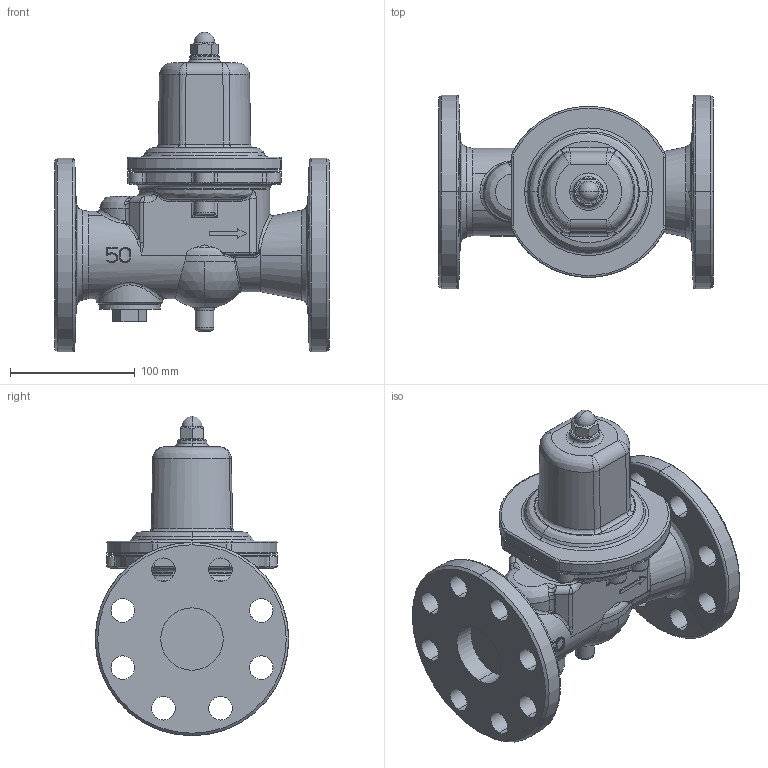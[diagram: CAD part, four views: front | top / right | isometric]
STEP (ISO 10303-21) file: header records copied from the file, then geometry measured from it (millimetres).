
FILE_DESCRIPTION( (''), '2;1');
FILE_NAME ('PC2091.14444.GD-29-NE 50A_23961.stp','2026-04-16T18:00:12',(''),(''),'spGate 21.9.4 (****-****-****-****)','','');
FILE_SCHEMA (('AUTOMOTIVE_DESIGN'));
Length unit declared in the file: millimetre
Products named in the file (6): Assembly; GD-26-NE ダイヤフラム 50A; GD-26-NE 保護筒 50A; GD-26-NE 六角袋ナット 32-50A; GD-26-NE ストレーナキャップ 32-50A; GD-27-NE 弁箱 50A
Assembly tree (5 placements, depth 2):
  Assembly
    GD-26-NE ダイヤフラム 50A
    GD-26-NE 保護筒 50A
    GD-26-NE 六角袋ナット 32-50A
    GD-26-NE ストレーナキャップ 32-50A
    GD-27-NE 弁箱 50A
Bounding box: 220 x 155 x 256 mm (x, y, z)
Volume: 2107255 mm3; surface area: 246208.4 mm2
Topology: 5 solids, 5 shells, 456 faces, 1134 edges, 671 vertices
Faces by surface type: bspline 211, cylinder 150, plane 73, sphere 22
Full cylindrical faces by diameter (mm): 18 x1
Entity records: 32884 total; most frequent: CARTESIAN_POINT 14888, ORIENTED_EDGE 2200, COLOUR_RGB 1561, PRESENTATION_STYLE_ASSIGNMENT 1561, STYLED_ITEM 1561, DIRECTION 1541, EDGE_CURVE 1100, DRAUGHTING_PRE_DEFINED_CURVE_FONT 1100
